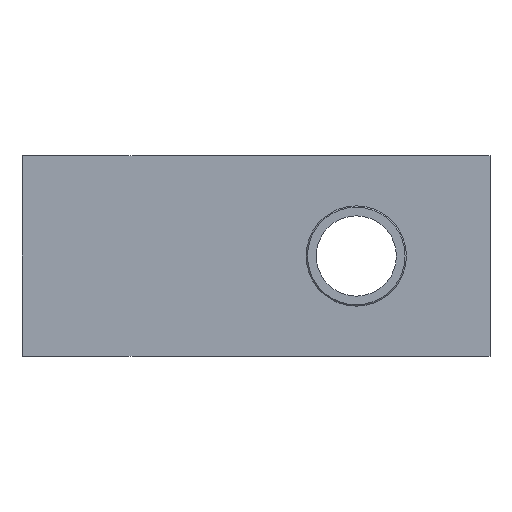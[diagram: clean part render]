
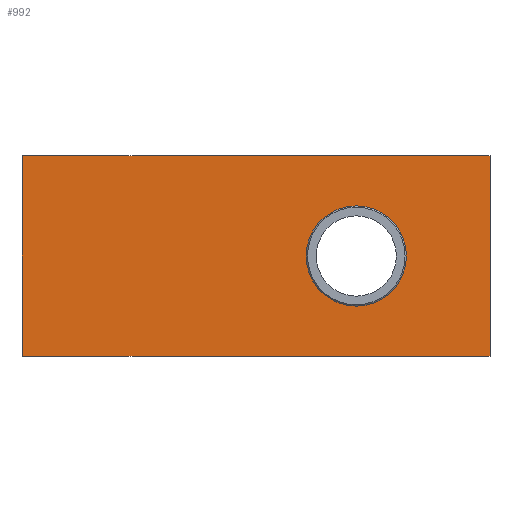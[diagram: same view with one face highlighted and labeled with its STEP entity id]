
A CAD part, front view. The second image highlights one B-rep face of the part: STEP entity #992.
In plain terms, the highlighted planar face has unit normal (0, -1, 0).
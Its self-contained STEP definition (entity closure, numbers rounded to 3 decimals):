
#95=FACE_BOUND('',#225,.T.);
#96=FACE_BOUND('',#226,.T.);
#125=PLANE('',#1073);
#225=EDGE_LOOP('',(#731));
#226=EDGE_LOOP('',(#732,#733,#734,#735));
#307=LINE('',#1530,#370);
#310=LINE('',#1535,#373);
#311=LINE('',#1538,#374);
#312=LINE('',#1539,#375);
#370=VECTOR('',#1211,70.);
#373=VECTOR('',#1216,30.);
#374=VECTOR('',#1219,70.);
#375=VECTOR('',#1220,30.);
#435=CIRCLE('',#1070,6.959);
#481=VERTEX_POINT('',#1520);
#484=VERTEX_POINT('',#1527);
#485=VERTEX_POINT('',#1529);
#486=VERTEX_POINT('',#1533);
#487=VERTEX_POINT('',#1537);
#580=EDGE_CURVE('',#481,#481,#435,.T.);
#584=EDGE_CURVE('',#485,#484,#307,.T.);
#587=EDGE_CURVE('',#484,#486,#310,.T.);
#588=EDGE_CURVE('',#486,#487,#311,.T.);
#589=EDGE_CURVE('',#485,#487,#312,.T.);
#731=ORIENTED_EDGE('',*,*,#580,.T.);
#732=ORIENTED_EDGE('',*,*,#588,.T.);
#733=ORIENTED_EDGE('',*,*,#589,.F.);
#734=ORIENTED_EDGE('',*,*,#584,.T.);
#735=ORIENTED_EDGE('',*,*,#587,.T.);
#992=ADVANCED_FACE('',(#95,#96),#125,.T.);
#1070=AXIS2_PLACEMENT_3D('',#1521,#1204,#1205);
#1073=AXIS2_PLACEMENT_3D('',#1536,#1217,#1218);
#1204=DIRECTION('center_axis',(0.,1.,0.));
#1205=DIRECTION('ref_axis',(1.,0.,0.));
#1211=DIRECTION('',(1.,0.,0.));
#1216=DIRECTION('',(0.,0.,1.));
#1217=DIRECTION('center_axis',(0.,-1.,0.));
#1218=DIRECTION('ref_axis',(0.,0.,-1.));
#1219=DIRECTION('',(-1.,0.,0.));
#1220=DIRECTION('',(0.,0.,1.));
#1520=CARTESIAN_POINT('',(41.959,-15.,0.));
#1521=CARTESIAN_POINT('Origin',(35.,-15.,0.));
#1527=CARTESIAN_POINT('',(55.,-15.,-15.));
#1529=CARTESIAN_POINT('',(-15.,-15.,-15.));
#1530=CARTESIAN_POINT('',(-15.,-15.,-15.));
#1533=CARTESIAN_POINT('',(55.,-15.,15.));
#1535=CARTESIAN_POINT('',(55.,-15.,0.));
#1536=CARTESIAN_POINT('Origin',(55.,-15.,0.));
#1537=CARTESIAN_POINT('',(-15.,-15.,15.));
#1538=CARTESIAN_POINT('',(-15.,-15.,15.));
#1539=CARTESIAN_POINT('',(-15.,-15.,0.));
